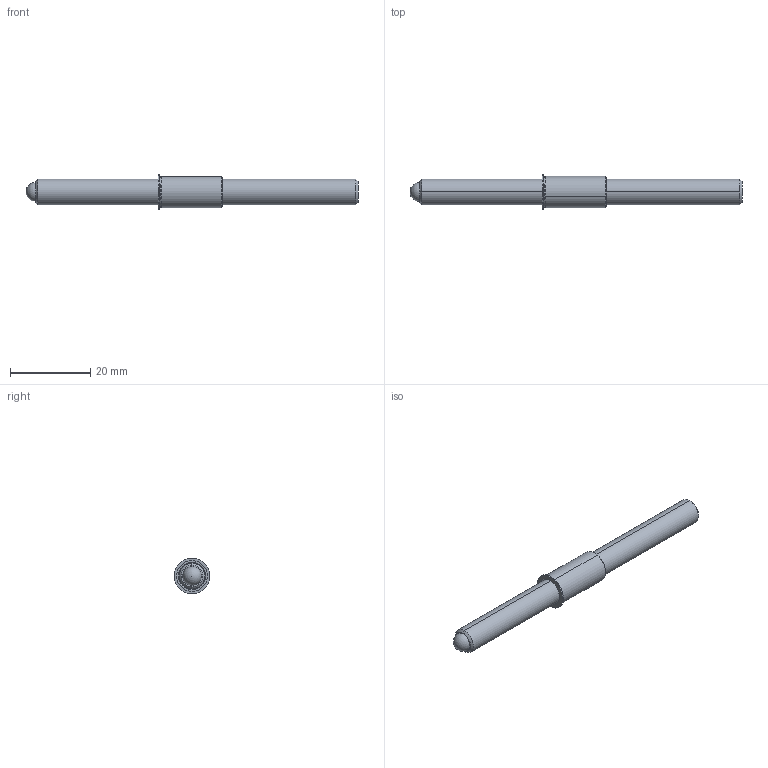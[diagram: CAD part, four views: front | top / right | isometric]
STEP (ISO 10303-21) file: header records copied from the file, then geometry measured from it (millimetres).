
FILE_DESCRIPTION (( 'STEP AP214' ), '1' );
FILE_NAME ('TSB250-80-3250_625-AA.STEP', '2013-03-14T13:06:59', ( 'workpc' ), ( 'Microsoft' ), 'SwSTEP 2.0', 'SolidWorks 2013', '' );
FILE_SCHEMA (( 'AUTOMOTIVE_DESIGN' ));
Length unit declared in the file: inch
Products named in the file (1): TSB250-80-3250_625-AA
Bounding box: 82.55 x 8.91 x 8.91 mm (x, y, z)
Surface area: 2179.5 mm2 (no closed solid volume)
Topology: 0 solids, 3 shells, 33 faces, 77 edges, 49 vertices
Faces by surface type: cone 12, plane 11, cylinder 8, sphere 2
Entity records: 1358 total; most frequent: DIRECTION 174, CARTESIAN_POINT 152, ORIENTED_EDGE 132, EDGE_CURVE 72, AXIS2_PLACEMENT_3D 68, VERTEX_POINT 46, EDGE_LOOP 38, LINE 38
